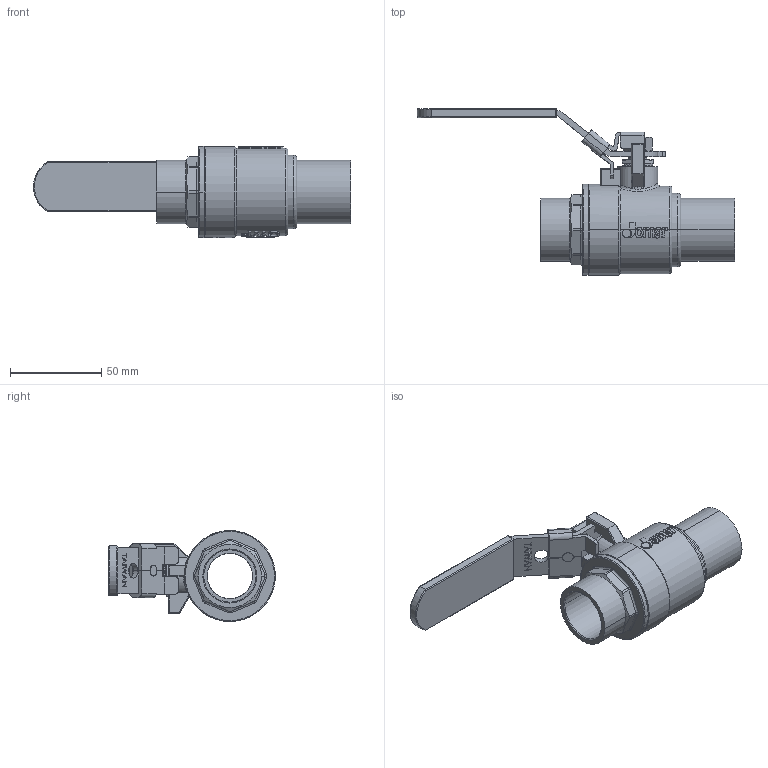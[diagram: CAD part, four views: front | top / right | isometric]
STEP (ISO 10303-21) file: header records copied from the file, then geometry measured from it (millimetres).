
FILE_DESCRIPTION (( 'STEP AP203' ), '1' );
FILE_NAME ('ABL755-Τ本玛-1''''JOMAR瞴恢CxC舱-礚筣.STEP', '2025-12-15T08:29:57', ( '' ), ( '' ), 'SwSTEP 2.0', 'SolidWorks 2018', '' );
FILE_SCHEMA (( 'CONFIG_CONTROL_DESIGN' ));
Length unit declared in the file: millimetre
Products named in the file (14): EBL205A; DN20-CBL215; DN20 & DN25-CBL744-白色膠套-T&G-200CSSG-LH; EBL205B; EBL159; ABL755-¦³±¾Âê-1''''JOMAR²y»ÖCxC²Õ¦X-µL¹]; TBL265(無鑽孔); DN20-CBL744-掛鎖把手組合; BBL715-1''''JOMAR球閥體-CxC-無鉛無插溝; RBL264; BBL715A-1''''JOMAR²y»Ö-CxC´U»\-µL¹]µL´¡·¾; GBL205 (組裝); NBL265; DN20-掛鎖
Assembly tree (14 placements, depth 3):
  ABL755-¦³±¾Âê-1''''JOMAR²y»ÖCxC²Õ¦X-µL¹]
    BBL715-1''''JOMAR球閥體-CxC-無鉛無插溝
    RBL264
    EBL205A
    EBL205B
    GBL205 (組裝)
    BBL715A-1''''JOMAR²y»Ö-CxC´U»\-µL¹]µL´¡·¾
    NBL265
    DN20-CBL744-掛鎖把手組合
      DN20-CBL215
      DN20-掛鎖
    EBL159  x2
    TBL265(無鑽孔)
    DN20 & DN25-CBL744-白色膠套-T&G-200CSSG-LH
Bounding box: 174.2 x 91.61 x 50 mm (x, y, z)
Volume: 108538.6 mm3; surface area: 73305.5 mm2
Topology: 13 solids, 13 shells, 2274 faces, 6087 edges, 4009 vertices
Faces by surface type: plane 1237, bspline 644, cylinder 285, cone 58, torus 32, sphere 18
Entity records: 111529 total; most frequent: CARTESIAN_POINT 58385, ORIENTED_EDGE 12090, DIRECTION 8205, EDGE_CURVE 6045, VERTEX_POINT 3989, VECTOR 3851, LINE 3851, EDGE_LOOP 2470
